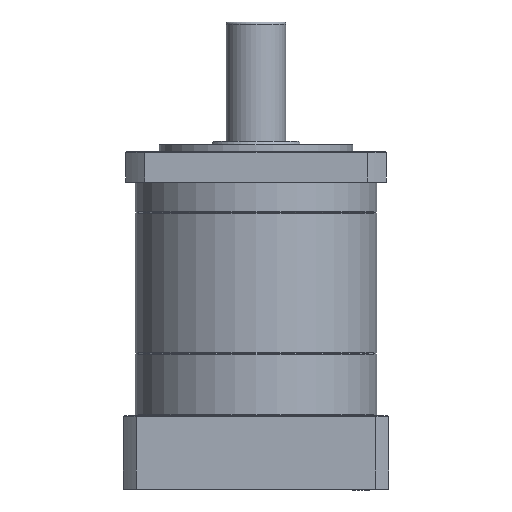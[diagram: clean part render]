
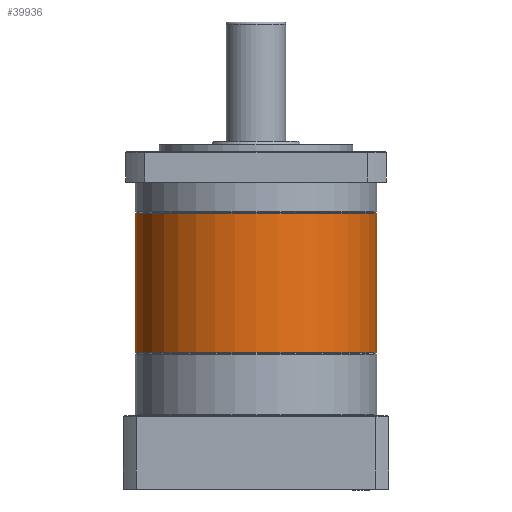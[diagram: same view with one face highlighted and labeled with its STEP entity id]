
A CAD part, front view. The second image highlights one B-rep face of the part: STEP entity #39936.
In plain terms, the highlighted cylindrical face has radius 81 mm (diameter 162 mm), a partial arc.
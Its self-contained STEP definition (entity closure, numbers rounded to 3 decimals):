
#3209 = EDGE_LOOP ( 'NONE', ( #42578, #51336, #16660, #90790 ) ) ;
#7537 = FACE_OUTER_BOUND ( 'NONE', #3209, .T. ) ;
#13019 = CARTESIAN_POINT ( 'NONE',  ( 277.446, 56.633, 22.488 ) ) ;
#14806 = DIRECTION ( 'NONE',  ( 1., 0., 0. ) ) ;
#14818 = CARTESIAN_POINT ( 'NONE',  ( 115.446, 56.633, 22.488 ) ) ;
#16660 = ORIENTED_EDGE ( 'NONE', *, *, #73755, .T. ) ;
#17168 = LINE ( 'NONE', #72608, #96777 ) ;
#17506 = VERTEX_POINT ( 'NONE', #91592 ) ;
#22152 = DIRECTION ( 'NONE',  ( 1., 0., 0. ) ) ;
#25861 = CIRCLE ( 'NONE', #99722, 81. ) ;
#27637 = EDGE_CURVE ( 'NONE', #87733, #88221, #70548, .T. ) ;
#36570 = AXIS2_PLACEMENT_3D ( 'NONE', #43500, #51292, #22152 ) ;
#39936 = ADVANCED_FACE ( 'NONE', ( #7537 ), #54631, .T. ) ;
#42578 = ORIENTED_EDGE ( 'NONE', *, *, #57019, .F. ) ;
#43225 = CARTESIAN_POINT ( 'NONE',  ( 277.446, 56.633, 21.988 ) ) ;
#43500 = CARTESIAN_POINT ( 'NONE',  ( 196.446, 56.633, 21.988 ) ) ;
#44929 = EDGE_CURVE ( 'NONE', #51837, #17506, #25861, .T. ) ;
#51292 = DIRECTION ( 'NONE',  ( 0., 0., 1. ) ) ;
#51336 = ORIENTED_EDGE ( 'NONE', *, *, #27637, .T. ) ;
#51837 = VERTEX_POINT ( 'NONE', #70058 ) ;
#54631 = CYLINDRICAL_SURFACE ( 'NONE', #36570, 81. ) ;
#57019 = EDGE_CURVE ( 'NONE', #87733, #17506, #17168, .T. ) ;
#65349 = VECTOR ( 'NONE', #91010, 1000. ) ;
#66804 = DIRECTION ( 'NONE',  ( 0., 0., 1. ) ) ;
#70058 = CARTESIAN_POINT ( 'NONE',  ( 277.446, 56.633, 115.988 ) ) ;
#70548 = CIRCLE ( 'NONE', #83296, 81. ) ;
#71289 = DIRECTION ( 'NONE',  ( 0., 0., 1. ) ) ;
#72608 = CARTESIAN_POINT ( 'NONE',  ( 115.446, 56.633, 21.988 ) ) ;
#73755 = EDGE_CURVE ( 'NONE', #88221, #51837, #85768, .T. ) ;
#75877 = CARTESIAN_POINT ( 'NONE',  ( 196.446, 56.633, 22.488 ) ) ;
#83296 = AXIS2_PLACEMENT_3D ( 'NONE', #75877, #66804, #90346 ) ;
#85768 = LINE ( 'NONE', #43225, #65349 ) ;
#87733 = VERTEX_POINT ( 'NONE', #14818 ) ;
#88221 = VERTEX_POINT ( 'NONE', #13019 ) ;
#90346 = DIRECTION ( 'NONE',  ( 1., 0., 0. ) ) ;
#90790 = ORIENTED_EDGE ( 'NONE', *, *, #44929, .T. ) ;
#91010 = DIRECTION ( 'NONE',  ( 0., 0., 1. ) ) ;
#91592 = CARTESIAN_POINT ( 'NONE',  ( 115.446, 56.633, 115.988 ) ) ;
#92316 = CARTESIAN_POINT ( 'NONE',  ( 196.446, 56.633, 115.988 ) ) ;
#96777 = VECTOR ( 'NONE', #71289, 1000. ) ;
#98743 = DIRECTION ( 'NONE',  ( 0., 0., -1. ) ) ;
#99722 = AXIS2_PLACEMENT_3D ( 'NONE', #92316, #98743, #14806 ) ;
